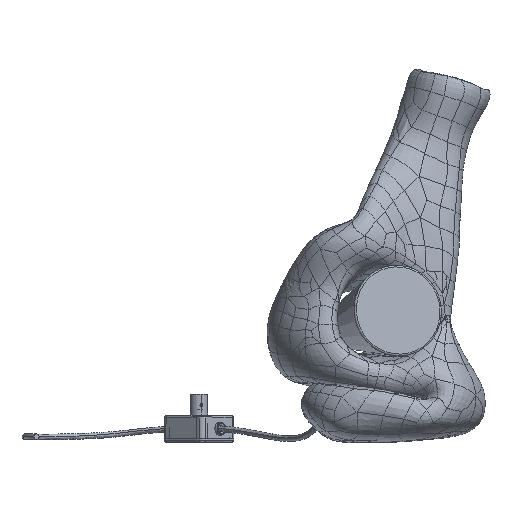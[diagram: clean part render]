
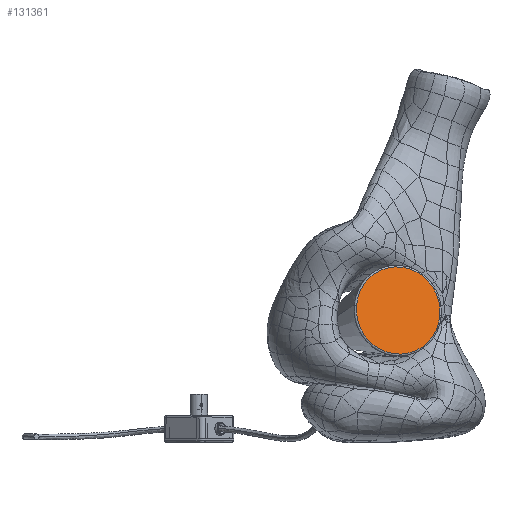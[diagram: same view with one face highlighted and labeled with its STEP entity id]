
A CAD part, top view. The second image highlights one B-rep face of the part: STEP entity #131361.
In plain terms, the highlighted planar face has unit normal (0.296, 0.089, 0.951) as drawn and (1, 0, 0) by its records, which use the part's own axes.
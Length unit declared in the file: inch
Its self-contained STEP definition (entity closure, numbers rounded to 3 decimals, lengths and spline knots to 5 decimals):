
#6580 = CARTESIAN_POINT ( 'NONE',  ( 0., 0., 0. ) ) ;
#7609 = DIRECTION ( 'NONE',  ( 1., 0., 0. ) ) ;
#16708 = DIRECTION ( 'NONE',  ( 0., 1., 0. ) ) ;
#24961 = DIRECTION ( 'NONE',  ( 0., 1., 0. ) ) ;
#47917 = EDGE_CURVE ( 'NONE', #52651, #91868, #195694, .T. ) ;
#52651 = VERTEX_POINT ( 'NONE', #180755 ) ;
#78315 = ORIENTED_EDGE ( 'NONE', *, *, #47917, .T. ) ;
#81844 = DIRECTION ( 'NONE',  ( 1., 0., 0. ) ) ;
#82170 = CIRCLE ( 'NONE', #203556, 1.91006 ) ;
#88230 = AXIS2_PLACEMENT_3D ( 'NONE', #184953, #81844, #16708 ) ;
#91868 = VERTEX_POINT ( 'NONE', #97676 ) ;
#94335 = EDGE_LOOP ( 'NONE', ( #132140, #78315 ) ) ;
#97676 = CARTESIAN_POINT ( 'NONE',  ( 0., 1.91006, 0. ) ) ;
#106654 = EDGE_CURVE ( 'NONE', #91868, #52651, #82170, .T. ) ;
#107518 = PLANE ( 'NONE',  #151785 ) ;
#123805 = FACE_OUTER_BOUND ( 'NONE', #94335, .T. ) ;
#131361 = ADVANCED_FACE ( 'NONE', ( #123805 ), #107518, .T. ) ;
#132140 = ORIENTED_EDGE ( 'NONE', *, *, #106654, .T. ) ;
#151785 = AXIS2_PLACEMENT_3D ( 'NONE', #6580, #190062, #156393 ) ;
#156393 = DIRECTION ( 'NONE',  ( 0., 1., 0. ) ) ;
#167534 = CARTESIAN_POINT ( 'NONE',  ( 0., 0., 0. ) ) ;
#180755 = CARTESIAN_POINT ( 'NONE',  ( 0., -1.91006, 0. ) ) ;
#184953 = CARTESIAN_POINT ( 'NONE',  ( 0., 0., 0. ) ) ;
#190062 = DIRECTION ( 'NONE',  ( 1., 0., 0. ) ) ;
#195694 = CIRCLE ( 'NONE', #88230, 1.91006 ) ;
#203556 = AXIS2_PLACEMENT_3D ( 'NONE', #167534, #7609, #24961 ) ;
